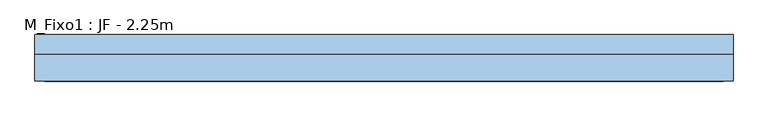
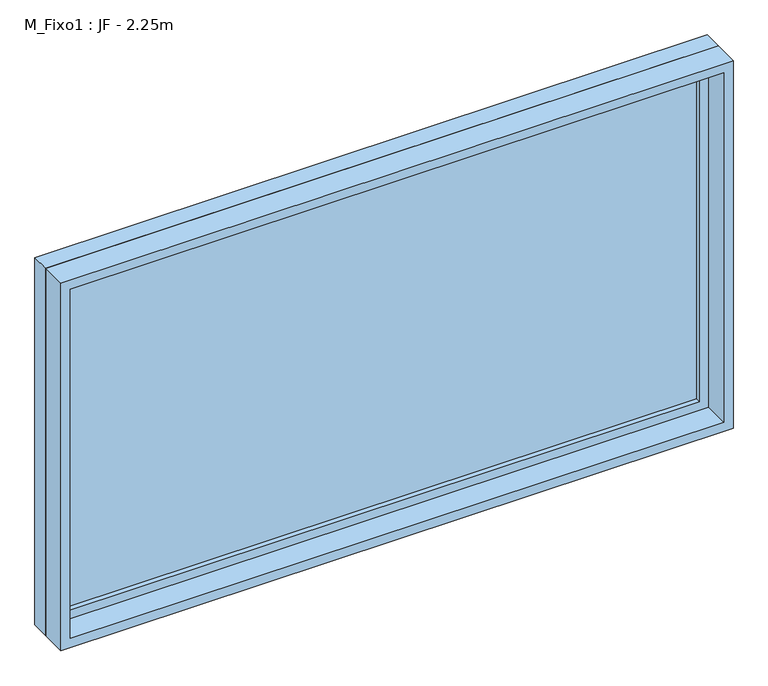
"""IFC4 building model written with IfcOpenShell, lengths in millimetres: window geometry, M_Fixo1 : JF - 2.25m."""

import ifcopenshell
import ifcopenshell.guid

model = None  # the IFC model being written
_history = None  # IfcOwnerHistory: only IFC2X3 demands one
_inside = {}  # id of a spatial element -> (the spatial element, [elements in it])
_under = {}  # id of a project, library or spatial element -> (it, [spatial elements below it])
_declared = {}  # id of a project -> (the project, [libraries it declares])
_typed = {}  # id of a type object -> (the type object, [elements of that type])
_made_of = {}  # id of a material, layer set ... -> (it, [elements and type objects made of it])


def new_model(schema):
    """Start an empty IFC model of exactly this schema.

    Asked for "IFC4X3", IfcOpenShell would pick the latest addendum, in which some entities
    have other attributes; the version numbers below select the first issue.
    IFC2X3 requires an IfcOwnerHistory on every rooted entity: one is made here for all.
    """
    global model, _history
    if schema == "IFC4X3":
        model = ifcopenshell.file(schema_version=(4, 3, 0, 0))
    else:
        model = ifcopenshell.file(schema=schema)
    _inside.clear()
    _under.clear()
    _declared.clear()
    _typed.clear()
    _made_of.clear()
    _history = None
    if model.schema == "IFC2X3":
        org = make("IfcOrganization", Name="unknown")
        user = make(
            "IfcPersonAndOrganization",
            ThePerson=make("IfcPerson", FamilyName="unknown"),
            TheOrganization=org,
        )
        app = make(
            "IfcApplication",
            ApplicationDeveloper=org,
            Version="unknown",
            ApplicationFullName="unknown",
            ApplicationIdentifier="unknown",
        )
        _history = make(
            "IfcOwnerHistory",
            OwningUser=user,
            OwningApplication=app,
            ChangeAction="ADDED",
            CreationDate=0,
        )
    return model


def make(cls, **values):
    """One entity of the class cls with the attributes given. An attribute that is None is left unset."""
    return model.create_entity(
        cls, **{name: value for name, value in values.items() if value is not None}
    )


def rooted(cls, **values):
    """An entity with a GlobalId (a new one), such as an element, a storey or a relation."""
    return make(cls, GlobalId=ifcopenshell.guid.new(), OwnerHistory=_history, **values)


def si_unit(unit_type, name, prefix=None):
    """IfcSIUnit, for example si_unit("LENGTHUNIT", "METRE", prefix="MILLI")."""
    return make("IfcSIUnit", UnitType=unit_type, Prefix=prefix, Name=name)


def assignment(units):
    """IfcUnitAssignment: the units of a project."""
    return None if units is None else make("IfcUnitAssignment", Units=units)


def point(xyz):
    """IfcCartesianPoint."""
    return None if xyz is None else make("IfcCartesianPoint", Coordinates=xyz)


def direction(xyz):
    """IfcDirection."""
    return None if xyz is None else make("IfcDirection", DirectionRatios=xyz)


def frame(location, z_axis=None, x_axis=None):
    """IfcAxis2Placement3D, a coordinate frame: its origin and axes. An axis left out is left unset."""
    return make(
        "IfcAxis2Placement3D",
        Location=point(location),
        Axis=direction(z_axis),
        RefDirection=direction(x_axis),
    )


def origin():
    """The frame at (0, 0, 0) with its axes left unset."""
    return frame((0.0, 0.0, 0.0))


def place(relative_to, where):
    """IfcLocalPlacement: puts the frame where relative to a parent placement (None: the world)."""
    return make(
        "IfcLocalPlacement", PlacementRelTo=relative_to, RelativePlacement=where
    )


def context(
    kind, dimensions, precision=None, world=None, true_north=None, identifier=None
):
    """IfcGeometricRepresentationContext, for example the 3D "Model" context."""
    return make(
        "IfcGeometricRepresentationContext",
        ContextIdentifier=identifier,
        ContextType=kind,
        CoordinateSpaceDimension=dimensions,
        Precision=precision,
        WorldCoordinateSystem=world,
        TrueNorth=true_north,
    )


def project(units=None, contexts=None):
    """IfcProject with its units and contexts."""
    return rooted(
        "IfcProject",
        Name="project",
        RepresentationContexts=contexts,
        UnitsInContext=assignment(units),
    )


def spatial(cls, under=None, at=None, **own):
    """A site, building, storey or space (cls), placed at a placement, below another one or the project."""
    s = rooted(cls, ObjectPlacement=at, **own)
    if under is not None:
        _under.setdefault(under.id(), (under, []))[1].append(s)
    return s


def polyline(points):
    """IfcPolyline through the points."""
    return make("IfcPolyline", Points=[point(p) for p in points])


def outline(outer, holes=None, kind="AREA"):
    """IfcArbitraryClosedProfileDef: a profile drawn as a closed curve; with holes, ...WithVoids."""
    if holes is None:
        return make("IfcArbitraryClosedProfileDef", ProfileType=kind, OuterCurve=outer)
    return make(
        "IfcArbitraryProfileDefWithVoids",
        ProfileType=kind,
        OuterCurve=outer,
        InnerCurves=holes,
    )


def extrude(swept, where, along, depth):
    """IfcExtrudedAreaSolid: the profile swept, set in the frame where, extruded along a direction by depth."""
    return make(
        "IfcExtrudedAreaSolid",
        SweptArea=swept,
        Position=where,
        ExtrudedDirection=direction(along),
        Depth=depth,
    )


def shape(context_of_items, identifier, shape_type, items):
    """IfcShapeRepresentation: the items that make up one representation, for example the "Body"."""
    return make(
        "IfcShapeRepresentation",
        ContextOfItems=context_of_items,
        RepresentationIdentifier=identifier,
        RepresentationType=shape_type,
        Items=items,
    )


def source(mapping_origin, context_of_items, identifier, shape_type, items):
    """IfcRepresentationMap: a shape defined once, which mapped items show again and again."""
    return make(
        "IfcRepresentationMap",
        MappingOrigin=mapping_origin,
        MappedRepresentation=shape(context_of_items, identifier, shape_type, items),
    )


def transform(
    local_origin,
    x_axis=None,
    y_axis=None,
    z_axis=None,
    scale=None,
    scale2=None,
    scale3=None,
    uniform=True,
):
    """IfcCartesianTransformationOperator3D, or its non-uniform kind. x_axis, y_axis, z_axis: its Axis1, 2, 3."""
    if uniform:
        return make(
            "IfcCartesianTransformationOperator3D",
            Axis1=direction(x_axis),
            Axis2=direction(y_axis),
            LocalOrigin=point(local_origin),
            Scale=scale,
            Axis3=direction(z_axis),
        )
    return make(
        "IfcCartesianTransformationOperator3DnonUniform",
        Axis1=direction(x_axis),
        Axis2=direction(y_axis),
        LocalOrigin=point(local_origin),
        Scale=scale,
        Axis3=direction(z_axis),
        Scale2=scale2,
        Scale3=scale3,
    )


def mapped(mapping_source, mapping_target):
    """IfcMappedItem: shows the shape of a source again, moved by a transform."""
    return make(
        "IfcMappedItem", MappingSource=mapping_source, MappingTarget=mapping_target
    )


def made_of(thing, what):
    """Note that an element or type object is made of a material, layer set ...; save() writes the relation."""
    if what is not None:
        _made_of.setdefault(what.id(), (what, []))[1].append(thing)
    return thing


def element(
    cls,
    number,
    at=None,
    inside=None,
    cuts=None,
    type_object=None,
    material=None,
    context=None,
    identifier="Body",
    shape_type=None,
    held_by="IfcProductDefinitionShape",
    body=None,
    shapes=None,
    **own,
):
    """One element of the class cls, such as IfcWall. Its Tag is "e" and its number.

    at: its placement. inside: the storey or other place that contains it. cuts: it is an
    opening in that element (IfcRelVoidsElement). A single representation is given by context,
    identifier, shape_type and body (its items); several are given by shapes. held_by: the class
    of the entity that holds the representations. save() writes the other relations.
    """
    e = rooted(cls, Tag="e%d" % number, ObjectPlacement=at, **own)
    if body is not None:
        shapes = [shape(context, identifier, shape_type, body)]
    if shapes is not None:
        e.Representation = make(held_by, Representations=shapes)
    if inside is not None:
        _inside.setdefault(inside.id(), (inside, []))[1].append(e)
    if cuts is not None:
        rooted(
            "IfcRelVoidsElement", RelatingBuildingElement=cuts, RelatedOpeningElement=e
        )
    if type_object is not None:
        _typed.setdefault(type_object.id(), (type_object, []))[1].append(e)
    return made_of(e, material)


def aggregate(whole, parts):
    """IfcRelAggregates: a whole, such as a stair, and the parts it consists of."""
    return rooted("IfcRelAggregates", RelatingObject=whole, RelatedObjects=parts)


def save(model, path):
    """Write the relations noted so far, then the file.

    IfcRelAggregates (storeys below a building ...), IfcRelContainedInSpatialStructure (elements
    in a storey), IfcRelDefinesByType, IfcRelAssociatesMaterial and IfcRelDeclares: one each for
    every whole, place, type object, material and project.
    """
    for whole, parts in _under.values():
        aggregate(whole, parts)
    for where, things in _inside.values():
        rooted(
            "IfcRelContainedInSpatialStructure",
            RelatedElements=things,
            RelatingStructure=where,
        )
    for kind, things in _typed.values():
        rooted("IfcRelDefinesByType", RelatedObjects=things, RelatingType=kind)
    for what, things in _made_of.values():
        rooted("IfcRelAssociatesMaterial", RelatedObjects=things, RelatingMaterial=what)
    for by, libraries in _declared.values():
        rooted("IfcRelDeclares", RelatingContext=by, RelatedDefinitions=libraries)
    model.write(path)


def m_fixo1_jf_2_25m_9b9146e4(model_context):
    return source(origin(), model_context, "Body", "SweptSolid", [
        extrude(outline(polyline([(-1062.0, 53.0), (1062.0, 53.0), (1062.0, 41.0), (-1062.0, 41.0), (-1062.0, 53.0)])), frame((0.0, 0.0, 978.0), z_axis=(0.0, 0.0, 1.0), x_axis=(1.0, 0.0, 0.0)), (0.0, 0.0, 1.0), 1174.0),
        extrude(outline(polyline([(2196.0, -1106.0), (934.0, -1106.0), (934.0, 1106.0), (2196.0, 1106.0), (2196.0, -1106.0)]), holes=[polyline([(2152.0, -1062.0), (2152.0, 1062.0), (978.0, 1062.0), (978.0, -1062.0), (2152.0, -1062.0)])]), frame((0.0, 25.0, 0.0), z_axis=(0.0, 1.0, 0.0), x_axis=(0.0, 0.0, 1.0)), (0.0, 0.0, 1.0), 44.0),
        extrude(outline(polyline([(2215.0, -1125.0), (915.0, -1125.0), (915.0, 1125.0), (2215.0, 1125.0), (2215.0, -1125.0)]), holes=[polyline([(2196.0, -1106.0), (2196.0, 1106.0), (934.0, 1106.0), (934.0, -1106.0), (2196.0, -1106.0)])]), frame((0.0, 25.0, 0.0), z_axis=(0.0, 1.0, 0.0), x_axis=(0.0, 0.0, 1.0)), (0.0, 0.0, 1.0), 63.0),
        extrude(outline(polyline([(2215.0, -1125.0), (915.0, -1125.0), (915.0, 1125.0), (2215.0, 1125.0), (2215.0, -1125.0)]), holes=[polyline([(2183.0, -1093.0), (2183.0, 1093.0), (947.0, 1093.0), (947.0, -1093.0), (2183.0, -1093.0)])]), frame((0.0, -62.0, 0.0), z_axis=(0.0, 1.0, 0.0), x_axis=(0.0, 0.0, 1.0)), (0.0, 0.0, 1.0), 87.0),
    ])


if __name__ == "__main__":
    model = new_model("IFC4")
    model_context = context("Model", 3, world=origin())
    ifc_project = project(units=[si_unit("LENGTHUNIT", "METRE", prefix="MILLI")], contexts=[model_context])
    site = spatial("IfcSite", under=ifc_project)
    building = spatial("IfcBuilding", under=site)
    placement = place(None, origin())
    m_fixo1_jf_2_25m_shape = m_fixo1_jf_2_25m_9b9146e4(model_context)
    element("IfcWindow", 1, ObjectType="M_Fixo1 : JF - 2.25m", at=placement, inside=building, context=model_context, shape_type="MappedRepresentation", body=[
        mapped(m_fixo1_jf_2_25m_shape, transform((0.0, 0.0, 0.0), x_axis=(1.0, 0.0, 0.0), y_axis=(0.0, 1.0, 0.0), z_axis=(0.0, 0.0, 1.0))),
    ])
    save(model, "model.ifc")
